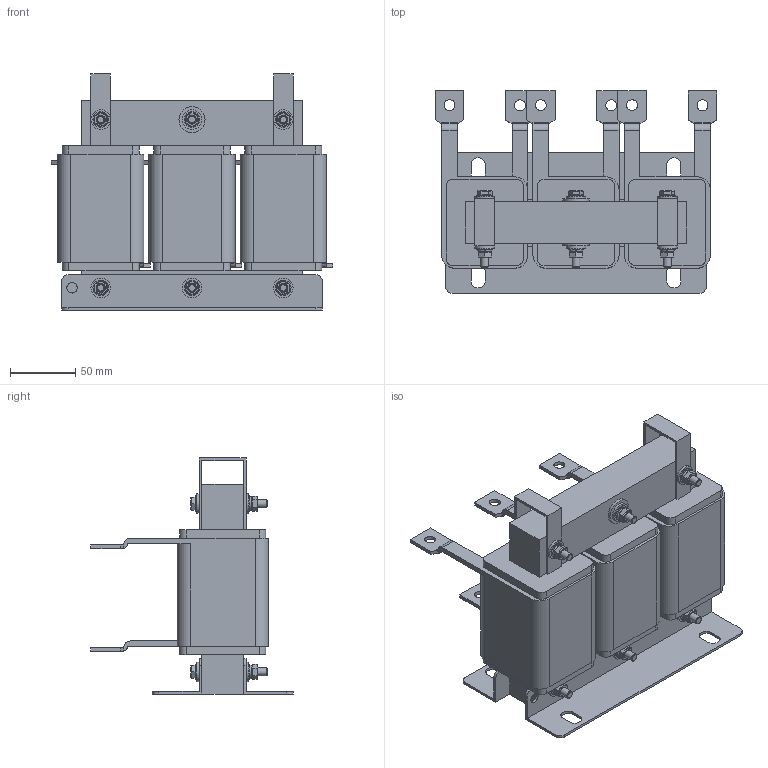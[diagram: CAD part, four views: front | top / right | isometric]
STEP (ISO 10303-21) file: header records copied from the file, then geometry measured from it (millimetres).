
FILE_DESCRIPTION(('STEP AP203'), '1');
FILE_NAME('栖闉罻 _ IMF-45_90-4', '', ('UNSPECIFIED'), ('UNSPECIFIED'), 'ASCON STEP Converter 1.6', 'ASCON Math Kernel', '');
FILE_SCHEMA(('CONFIG_CONTROL_DESIGN'));
Length unit declared in the file: millimetre
Products named in the file (13): IMF-45_90-4
Assembly tree (59 placements, depth 2):
  IMF-45_90-4
    IMF-45_90-4
    IMF-45_90-4  x2
    IMF-45_90-4  x6
    IMF-45_90-4  x3
    IMF-45_90-4
    IMF-45_90-4  x2
    IMF-45_90-4  x12
    IMF-45_90-4  x2
    IMF-45_90-4  x12
    IMF-45_90-4  x6
    IMF-45_90-4  x6
    IMF-45_90-4  x6
Bounding box: 216 x 155 x 181 mm (x, y, z)
Volume: 1724876.8 mm3; surface area: 294712.5 mm2
Topology: 59 solids, 59 shells, 680 faces, 1506 edges, 950 vertices
Faces by surface type: plane 486, cylinder 164, cone 18, torus 12
Full cylindrical faces by diameter (mm): 6 x54, 8 x2, 8.4 x6, 12 x12, 15 x12, 20 x2
Entity records: 6881 total; most frequent: CARTESIAN_POINT 1132, DIRECTION 914, ORIENTED_EDGE 742, EDGE_CURVE 371, AXIS2_PLACEMENT_3D 325, LINE 264, VECTOR 264, VERTEX_POINT 255
